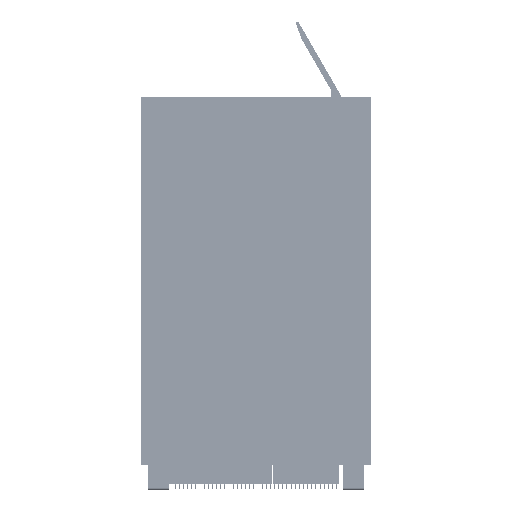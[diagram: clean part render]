
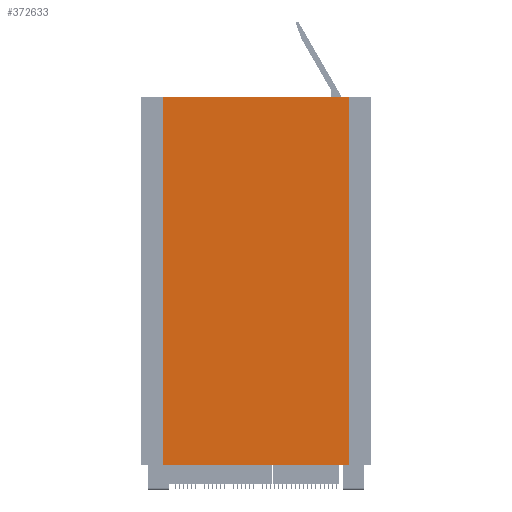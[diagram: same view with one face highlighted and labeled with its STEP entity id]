
A CAD part, front view. The second image highlights one B-rep face of the part: STEP entity #372633.
In plain terms, the highlighted planar face has unit normal (0, -1, 0).
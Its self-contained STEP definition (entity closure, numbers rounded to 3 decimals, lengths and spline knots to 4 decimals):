
#15673 = DIRECTION ( 'NONE',  ( 0., 1., 0. ) ) ;
#23172 = LINE ( 'NONE', #607402, #459710 ) ;
#32801 = ORIENTED_EDGE ( 'NONE', *, *, #265537, .F. ) ;
#37033 = CARTESIAN_POINT ( 'NONE',  ( 1.5985, -0.755, 0. ) ) ;
#45196 = AXIS2_PLACEMENT_3D ( 'NONE', #526095, #15673, #414104 ) ;
#71802 = CARTESIAN_POINT ( 'NONE',  ( 1.5985, -0.755, -6.2992 ) ) ;
#99810 = VERTEX_POINT ( 'NONE', #37033 ) ;
#142245 = VECTOR ( 'NONE', #209055, 39.3701 ) ;
#151818 = CARTESIAN_POINT ( 'NONE',  ( -1.5985, -0.755, -6.2992 ) ) ;
#206233 = VERTEX_POINT ( 'NONE', #241761 ) ;
#209055 = DIRECTION ( 'NONE',  ( 0., 0., 1. ) ) ;
#209057 = DIRECTION ( 'NONE',  ( -1., 0., 0. ) ) ;
#230313 = EDGE_CURVE ( 'NONE', #206233, #683629, #662000, .T. ) ;
#231995 = CARTESIAN_POINT ( 'NONE',  ( -1.5985, -0.755, -6.2992 ) ) ;
#241761 = CARTESIAN_POINT ( 'NONE',  ( 1.5985, -0.755, -6.2992 ) ) ;
#242188 = PLANE ( 'NONE',  #45196 ) ;
#255724 = ORIENTED_EDGE ( 'NONE', *, *, #386636, .T. ) ;
#265537 = EDGE_CURVE ( 'NONE', #683629, #715646, #445231, .T. ) ;
#265851 = LINE ( 'NONE', #71802, #702362 ) ;
#266313 = EDGE_CURVE ( 'NONE', #206233, #99810, #265851, .T. ) ;
#341079 = VECTOR ( 'NONE', #387744, 39.3701 ) ;
#361630 = ORIENTED_EDGE ( 'NONE', *, *, #266313, .T. ) ;
#372633 = ADVANCED_FACE ( 'NONE', ( #476019 ), #242188, .F. ) ;
#386636 = EDGE_CURVE ( 'NONE', #99810, #715646, #23172, .T. ) ;
#387744 = DIRECTION ( 'NONE',  ( -1., 0., 0. ) ) ;
#399455 = EDGE_LOOP ( 'NONE', ( #255724, #32801, #695411, #361630 ) ) ;
#414104 = DIRECTION ( 'NONE',  ( -1., 0., 0. ) ) ;
#445231 = LINE ( 'NONE', #151818, #142245 ) ;
#459710 = VECTOR ( 'NONE', #209057, 39.3701 ) ;
#476019 = FACE_OUTER_BOUND ( 'NONE', #399455, .T. ) ;
#526095 = CARTESIAN_POINT ( 'NONE',  ( 0., -0.755, -6.2992 ) ) ;
#539276 = CARTESIAN_POINT ( 'NONE',  ( -1.5985, -0.755, 0. ) ) ;
#607402 = CARTESIAN_POINT ( 'NONE',  ( 0., -0.755, 0. ) ) ;
#641954 = DIRECTION ( 'NONE',  ( 0., 0., 1. ) ) ;
#662000 = LINE ( 'NONE', #671634, #341079 ) ;
#671634 = CARTESIAN_POINT ( 'NONE',  ( 0., -0.755, -6.2992 ) ) ;
#683629 = VERTEX_POINT ( 'NONE', #231995 ) ;
#695411 = ORIENTED_EDGE ( 'NONE', *, *, #230313, .F. ) ;
#702362 = VECTOR ( 'NONE', #641954, 39.3701 ) ;
#715646 = VERTEX_POINT ( 'NONE', #539276 ) ;
